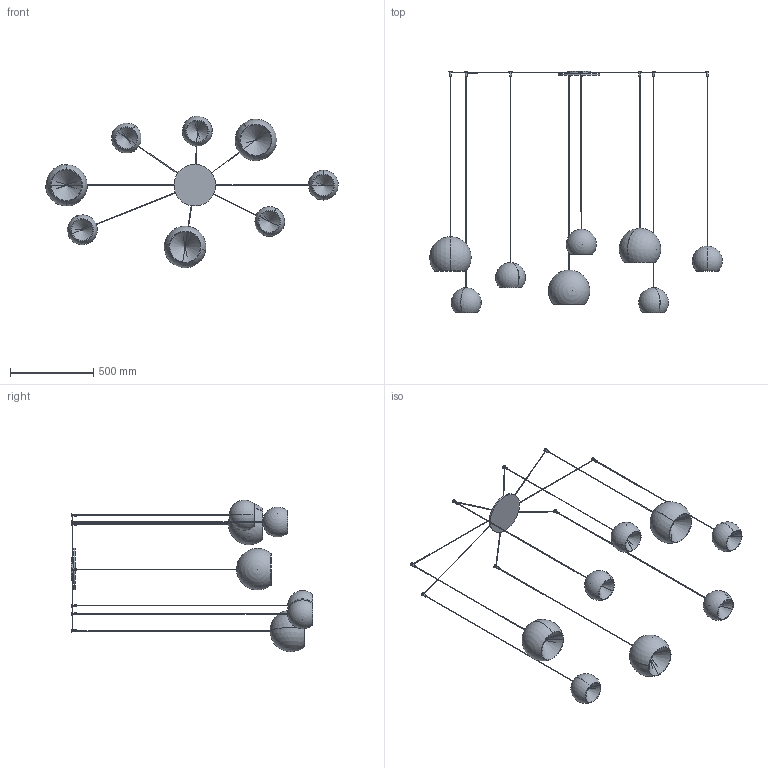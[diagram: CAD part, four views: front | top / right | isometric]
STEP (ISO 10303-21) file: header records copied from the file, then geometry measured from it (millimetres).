
FILE_DESCRIPTION (( 'STEP AP203' ), '1' );
FILE_NAME ('CRMA6-00-CHERRY MIX_8 sospensione.STEP', '2025-05-06T07:42:03', ( '' ), ( '' ), 'SwSTEP 2.0', 'SolidWorks 2022', '' );
FILE_SCHEMA (( 'CONFIG_CONTROL_DESIGN' ));
Length unit declared in the file: millimetre
Products named in the file (9): CHERRY_Rosone_Cherry 8 (x 2400)<A macchina>; CRMA6-00-CHERRY MIX_8 sospensione; CHERRY_Lampada singola_Cherry 180 | H=1800; CHERRY_Lampada singola_Cherry 250 | H=1850; CHERRY_Lampada singola_Cherry 180 | H=1550; CHERRY_Lampada singola_Cherry 250 | H=1600; CHERRY_Lampada singola_Cherry 250 | H=1800; CHERRY_Lampada singola_Cherry 180 | H=1900; CHERRY_Lampada singola_Cherry 180 | H=1700
Assembly tree (9 placements, depth 2):
  CRMA6-00-CHERRY MIX_8 sospensione
    CHERRY_Rosone_Cherry 8 (x 2400)<A macchina>
    CHERRY_Lampada singola_Cherry 250 | H=1800
    CHERRY_Lampada singola_Cherry 180 | H=1550  x2
    CHERRY_Lampada singola_Cherry 250 | H=1600
    CHERRY_Lampada singola_Cherry 180 | H=1800
    CHERRY_Lampada singola_Cherry 250 | H=1850
    CHERRY_Lampada singola_Cherry 180 | H=1900
    CHERRY_Lampada singola_Cherry 180 | H=1700
Bounding box: 1758 x 1450 x 909.89 mm (x, y, z)
Volume: 2904035.9 mm3; surface area: 2543773.8 mm2
Topology: 41 solids, 41 shells, 302 faces, 715 edges, 448 vertices
Faces by surface type: cylinder 139, plane 99, sphere 32, cone 32
Entity records: 8442 total; most frequent: CARTESIAN_POINT 1772, DIRECTION 1318, ORIENTED_EDGE 1074, AXIS2_PLACEMENT_3D 586, EDGE_CURVE 537, VERTEX_POINT 356, CIRCLE 304, EDGE_LOOP 299
